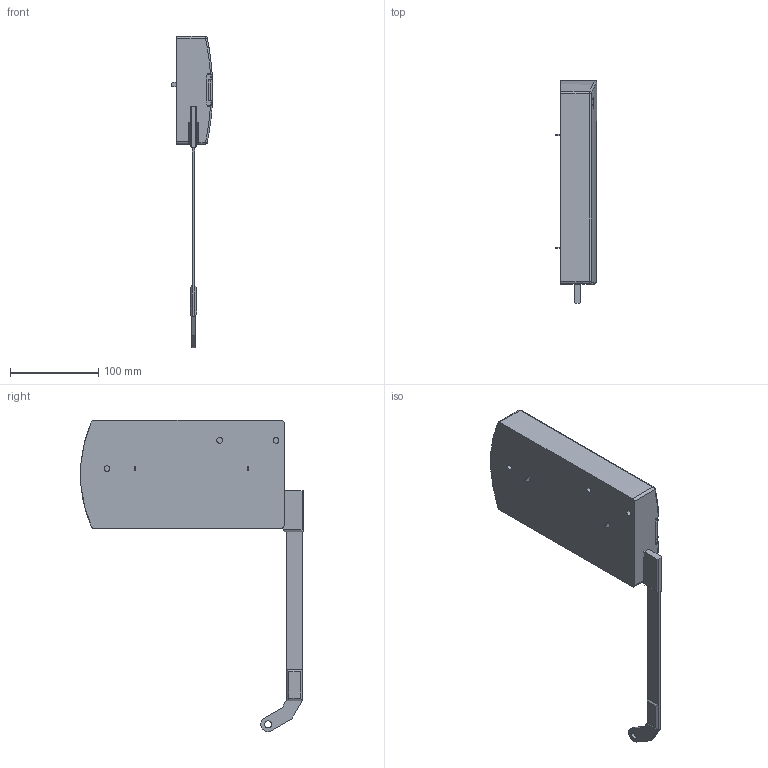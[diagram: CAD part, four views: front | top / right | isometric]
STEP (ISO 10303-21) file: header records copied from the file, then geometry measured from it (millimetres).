
FILE_DESCRIPTION (( 'STEP AP203' ), '1' );
FILE_NAME ('Kinvaro_F-20_Typ2_links_D2876007125~a.step', '2012-05-04T06:21:24', ( 'admin' ), ( 'Hewlett-Packard Company' ), 'SwSTEP 2.0', 'SolidWorks 2011', '' );
FILE_SCHEMA (( 'CONFIG_CONTROL_DESIGN' ));
Length unit declared in the file: millimetre
Products named in the file (1): Kinvaro_F-20_Typ2_links_D2876007125~a
Bounding box: 46.99 x 252.89 x 353.5 mm (x, y, z)
Volume: 1089589 mm3; surface area: 95728.7 mm2
Topology: 1 solids, 1 shells, 410 faces, 1130 edges, 741 vertices
Faces by surface type: cylinder 180, plane 172, bspline 46, torus 8, sphere 4
Entity records: 14396 total; most frequent: CARTESIAN_POINT 3991, ORIENTED_EDGE 2254, DIRECTION 2058, EDGE_CURVE 1127, VERTEX_POINT 741, AXIS2_PLACEMENT_3D 724, LINE 610, VECTOR 610
